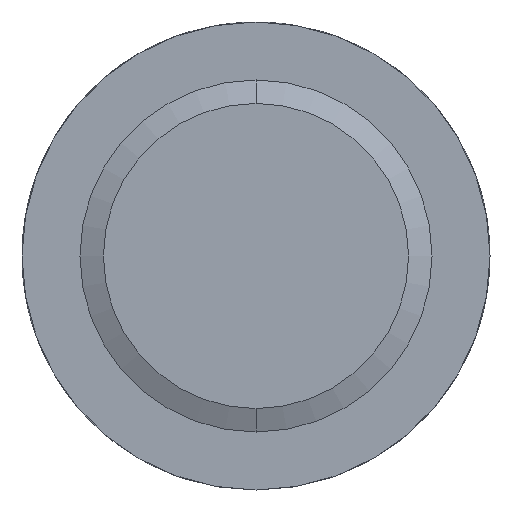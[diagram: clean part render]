
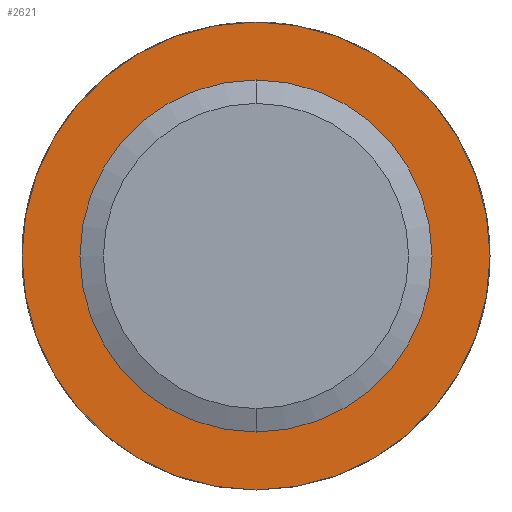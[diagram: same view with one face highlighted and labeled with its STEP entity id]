
A CAD part, front view. The second image highlights one B-rep face of the part: STEP entity #2621.
In plain terms, the highlighted planar face has unit normal (0, -1, 0).
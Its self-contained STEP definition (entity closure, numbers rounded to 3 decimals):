
#21 = EDGE_CURVE ( 'NONE', #2244, #2250, #3291, .T. ) ;
#161 = CARTESIAN_POINT ( 'NONE',  ( 1445., -29.25, 1765. ) ) ;
#224 = DIRECTION ( 'NONE',  ( 0., -1., 0. ) ) ;
#225 = DIRECTION ( 'NONE',  ( 0., 0., 1. ) ) ;
#741 = CARTESIAN_POINT ( 'NONE',  ( 1445., -29.25, 1765. ) ) ;
#742 = DIRECTION ( 'NONE',  ( 0., -1., 0. ) ) ;
#743 = DIRECTION ( 'NONE',  ( 0., 0., 1. ) ) ;
#1140 = CARTESIAN_POINT ( 'NONE',  ( 1445., -29.25, 1765. ) ) ;
#1141 = DIRECTION ( 'NONE',  ( 0., 1., 0. ) ) ;
#1142 = DIRECTION ( 'NONE',  ( 0., 0., 1. ) ) ;
#1268 = CARTESIAN_POINT ( 'NONE',  ( 1445., -29.25, 1765. ) ) ;
#1270 = DIRECTION ( 'NONE',  ( 0., 1., 0. ) ) ;
#1271 = DIRECTION ( 'NONE',  ( 0., 0., 1. ) ) ;
#1643 = EDGE_CURVE ( 'NONE', #2250, #2244, #3338, .T. ) ;
#1705 = AXIS2_PLACEMENT_3D ( 'NONE', #161, #224, #225 ) ;
#1734 = AXIS2_PLACEMENT_3D ( 'NONE', #741, #742, #743 ) ;
#1761 = AXIS2_PLACEMENT_3D ( 'NONE', #1140, #1141, #1142 ) ;
#1778 = AXIS2_PLACEMENT_3D ( 'NONE', #1268, #1270, #1271 ) ;
#1825 = AXIS2_PLACEMENT_3D ( 'NONE', #2614, #2627, #2629 ) ;
#1918 = EDGE_CURVE ( 'NONE', #2272, #2276, #3423, .T. ) ;
#1943 = EDGE_CURVE ( 'NONE', #2276, #2272, #3456, .T. ) ;
#2020 = ORIENTED_EDGE ( 'NONE', *, *, #1643, .T. ) ;
#2021 = ORIENTED_EDGE ( 'NONE', *, *, #21, .T. ) ;
#2022 = ORIENTED_EDGE ( 'NONE', *, *, #1943, .T. ) ;
#2023 = ORIENTED_EDGE ( 'NONE', *, *, #1918, .T. ) ;
#2199 = EDGE_LOOP ( 'NONE', ( #2020, #2021 ) ) ;
#2202 = EDGE_LOOP ( 'NONE', ( #2022, #2023 ) ) ;
#2244 = VERTEX_POINT ( 'NONE', #2451 ) ;
#2250 = VERTEX_POINT ( 'NONE', #2457 ) ;
#2272 = VERTEX_POINT ( 'NONE', #2479 ) ;
#2276 = VERTEX_POINT ( 'NONE', #2483 ) ;
#2451 = CARTESIAN_POINT ( 'NONE',  ( 1445., -29.25, 1685.25 ) ) ;
#2457 = CARTESIAN_POINT ( 'NONE',  ( 1445., -29.25, 1844.75 ) ) ;
#2479 = CARTESIAN_POINT ( 'NONE',  ( 1445., -29.25, 1705. ) ) ;
#2483 = CARTESIAN_POINT ( 'NONE',  ( 1445., -29.25, 1825. ) ) ;
#2614 = CARTESIAN_POINT ( 'NONE',  ( 1385., -29.25, 1765. ) ) ;
#2621 = ADVANCED_FACE ( 'NONE', ( #3552, #3548 ), #2625, .F. ) ;
#2625 = PLANE ( 'NONE',  #1825 ) ;
#2627 = DIRECTION ( 'NONE',  ( 0., 1., 0. ) ) ;
#2629 = DIRECTION ( 'NONE',  ( 0., 0., 1. ) ) ;
#3291 = CIRCLE ( 'NONE', #1705, 79.75 ) ;
#3338 = CIRCLE ( 'NONE', #1734, 79.75 ) ;
#3423 = CIRCLE ( 'NONE', #1761, 60. ) ;
#3456 = CIRCLE ( 'NONE', #1778, 60. ) ;
#3548 = FACE_BOUND ( 'NONE', #2202, .T. ) ;
#3552 = FACE_OUTER_BOUND ( 'NONE', #2199, .T. ) ;
